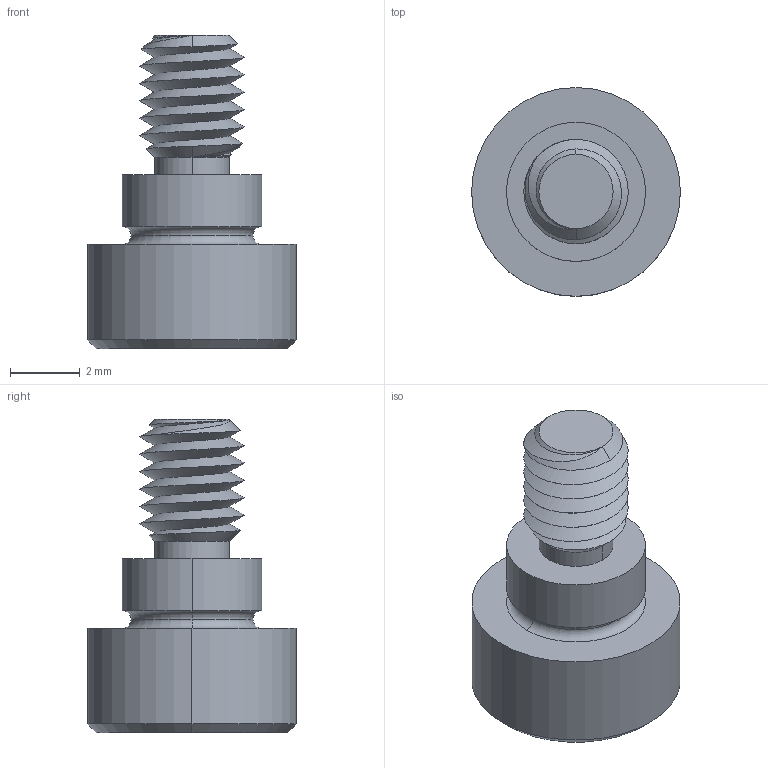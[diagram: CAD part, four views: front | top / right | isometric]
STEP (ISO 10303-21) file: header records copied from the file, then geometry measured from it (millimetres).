
FILE_DESCRIPTION (( 'STEP AP203' ), '1' );
FILE_NAME ('P0130.040-002-B2.step', '2021-11-09T20:59:37', ( '' ), ( '' ), 'SwSTEP 2.0', 'SolidWorks 2019', '' );
FILE_SCHEMA (( 'CONFIG_CONTROL_DESIGN' ));
Length unit declared in the file: millimetre
Products named in the file (1): P0130.040-002-B2
Bounding box: 6 x 6 x 9 mm (x, y, z)
Volume: 120.3 mm3; surface area: 209.5 mm2
Topology: 1 solids, 1 shells, 54 faces, 124 edges, 73 vertices
Faces by surface type: cylinder 18, plane 16, cone 14, torus 4, bspline 2
Entity records: 2218 total; most frequent: CARTESIAN_POINT 1016, ORIENTED_EDGE 244, DIRECTION 229, EDGE_CURVE 122, AXIS2_PLACEMENT_3D 93, VERTEX_POINT 73, EDGE_LOOP 57, FACE_OUTER_BOUND 54
